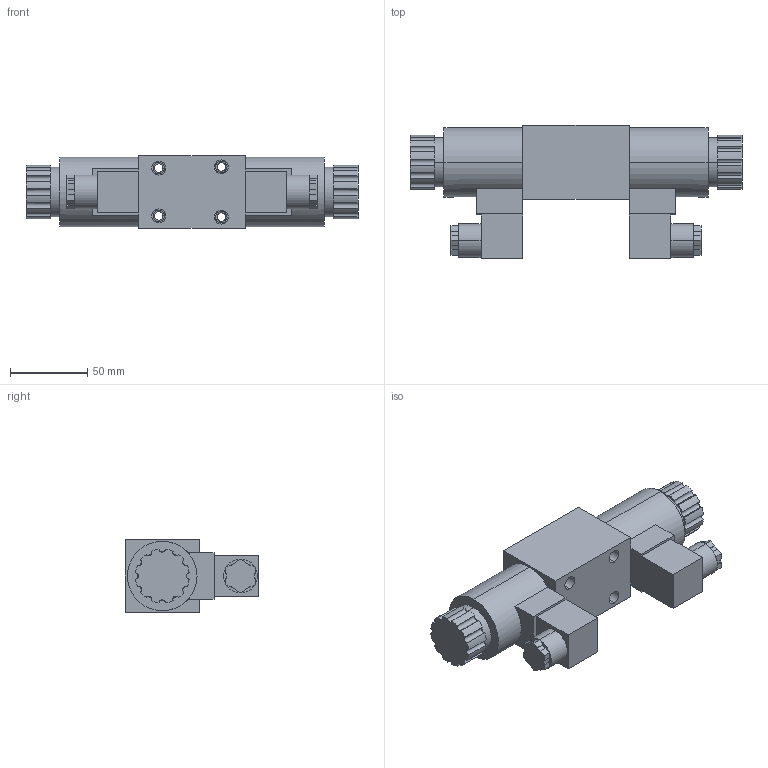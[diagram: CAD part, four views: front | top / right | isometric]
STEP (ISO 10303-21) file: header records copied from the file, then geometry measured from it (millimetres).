
FILE_DESCRIPTION (( 'STEP AP203' ), '1' );
FILE_NAME ('BFW-02-3C2掀瞰遙砃概.STEP', '2020-11-12T03:21:08', ( 'chen' ), ( '' ), 'SwSTEP 2.0', 'SolidWorks 2018', '' );
FILE_SCHEMA (( 'CONFIG_CONTROL_DESIGN' ));
Length unit declared in the file: millimetre
Products named in the file (1): BFW-02-3C2掀瞰遙砃概
Bounding box: 215 x 86.5 x 47 mm (x, y, z)
Volume: 418567.4 mm3; surface area: 57377 mm2
Topology: 1 solids, 2 shells, 283 faces, 694 edges, 436 vertices
Faces by surface type: plane 169, cylinder 114
Entity records: 8475 total; most frequent: DIRECTION 1598, CARTESIAN_POINT 1414, ORIENTED_EDGE 1388, EDGE_CURVE 694, AXIS2_PLACEMENT_3D 620, VERTEX_POINT 436, VECTOR 358, LINE 358
